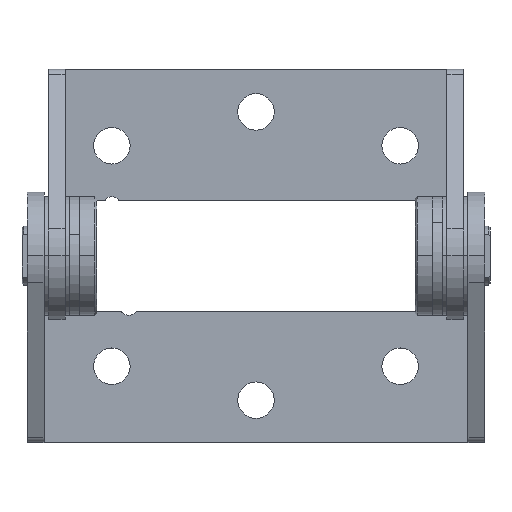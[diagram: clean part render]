
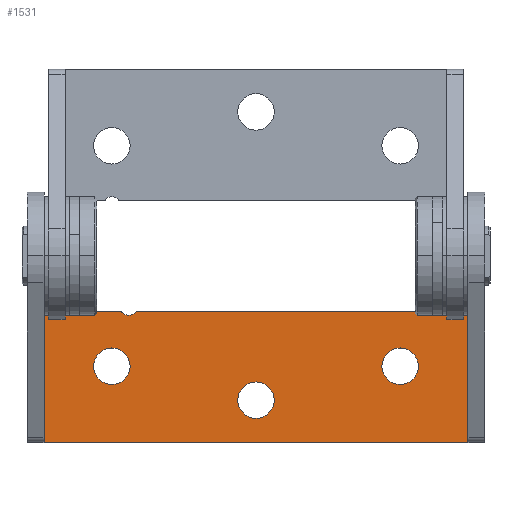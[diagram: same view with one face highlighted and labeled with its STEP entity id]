
A CAD part, top view. The second image highlights one B-rep face of the part: STEP entity #1531.
In plain terms, the highlighted planar face has unit normal (0, 0, 1).
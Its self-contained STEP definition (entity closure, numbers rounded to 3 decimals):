
#539 = VERTEX_POINT ( 'NONE', #4475 ) ;
#540 = VERTEX_POINT ( 'NONE', #4473 ) ;
#543 = VERTEX_POINT ( 'NONE', #4490 ) ;
#544 = VERTEX_POINT ( 'NONE', #4491 ) ;
#822 = VERTEX_POINT ( 'NONE', #4494 ) ;
#823 = VERTEX_POINT ( 'NONE', #4495 ) ;
#841 = VERTEX_POINT ( 'NONE', #2378 ) ;
#842 = VERTEX_POINT ( 'NONE', #2379 ) ;
#843 = VERTEX_POINT ( 'NONE', #2380 ) ;
#844 = VERTEX_POINT ( 'NONE', #2381 ) ;
#845 = VERTEX_POINT ( 'NONE', #2382 ) ;
#846 = VERTEX_POINT ( 'NONE', #2383 ) ;
#847 = VERTEX_POINT ( 'NONE', #2384 ) ;
#848 = VERTEX_POINT ( 'NONE', #2385 ) ;
#1001 = EDGE_LOOP ( 'NONE', ( #1392, #1394, #1393, #1395, #1397, #1396, #1398, #1399 ) ) ;
#1002 = EDGE_LOOP ( 'NONE', ( #1401, #1403 ) ) ;
#1003 = EDGE_LOOP ( 'NONE', ( #1400, #1405 ) ) ;
#1004 = EDGE_LOOP ( 'NONE', ( #1402, #1794 ) ) ;
#1392 = ORIENTED_EDGE ( 'NONE', *, *, #1614, .F. ) ;
#1393 = ORIENTED_EDGE ( 'NONE', *, *, #1611, .F. ) ;
#1394 = ORIENTED_EDGE ( 'NONE', *, *, #1613, .T. ) ;
#1395 = ORIENTED_EDGE ( 'NONE', *, *, #1615, .F. ) ;
#1396 = ORIENTED_EDGE ( 'NONE', *, *, #1617, .T. ) ;
#1397 = ORIENTED_EDGE ( 'NONE', *, *, #1616, .T. ) ;
#1398 = ORIENTED_EDGE ( 'NONE', *, *, #1618, .F. ) ;
#1399 = ORIENTED_EDGE ( 'NONE', *, *, #1619, .T. ) ;
#1400 = ORIENTED_EDGE ( 'NONE', *, *, #1621, .F. ) ;
#1401 = ORIENTED_EDGE ( 'NONE', *, *, #1620, .F. ) ;
#1402 = ORIENTED_EDGE ( 'NONE', *, *, #1622, .F. ) ;
#1403 = ORIENTED_EDGE ( 'NONE', *, *, #1582, .F. ) ;
#1405 = ORIENTED_EDGE ( 'NONE', *, *, #1586, .F. ) ;
#1531 = ADVANCED_FACE ( 'NONE', ( #2258, #2259, #2260, #2261 ), #2769, .T. ) ;
#1582 = EDGE_CURVE ( 'NONE', #539, #540, #3468, .T. ) ;
#1586 = EDGE_CURVE ( 'NONE', #543, #544, #3474, .T. ) ;
#1590 = EDGE_CURVE ( 'NONE', #822, #823, #3480, .T. ) ;
#1611 = EDGE_CURVE ( 'NONE', #841, #842, #2345, .T. ) ;
#1613 = EDGE_CURVE ( 'NONE', #843, #842, #3508, .T. ) ;
#1614 = EDGE_CURVE ( 'NONE', #843, #844, #3516, .T. ) ;
#1615 = EDGE_CURVE ( 'NONE', #845, #841, #2347, .T. ) ;
#1616 = EDGE_CURVE ( 'NONE', #845, #846, #2348, .T. ) ;
#1617 = EDGE_CURVE ( 'NONE', #846, #847, #2349, .T. ) ;
#1618 = EDGE_CURVE ( 'NONE', #848, #847, #2350, .T. ) ;
#1619 = EDGE_CURVE ( 'NONE', #848, #844, #3522, .T. ) ;
#1620 = EDGE_CURVE ( 'NONE', #540, #539, #3498, .T. ) ;
#1621 = EDGE_CURVE ( 'NONE', #544, #543, #3500, .T. ) ;
#1622 = EDGE_CURVE ( 'NONE', #823, #822, #3518, .T. ) ;
#1794 = ORIENTED_EDGE ( 'NONE', *, *, #1590, .F. ) ;
#2258 = FACE_OUTER_BOUND ( 'NONE', #1001, .T. ) ;
#2259 = FACE_BOUND ( 'NONE', #1002, .T. ) ;
#2260 = FACE_BOUND ( 'NONE', #1003, .T. ) ;
#2261 = FACE_BOUND ( 'NONE', #1004, .T. ) ;
#2345 = LINE ( 'NONE', #3000, #3513 ) ;
#2347 = LINE ( 'NONE', #3010, #3519 ) ;
#2348 = LINE ( 'NONE', #3012, #3520 ) ;
#2349 = LINE ( 'NONE', #3014, #3521 ) ;
#2350 = LINE ( 'NONE', #3016, #3523 ) ;
#2378 = CARTESIAN_POINT ( 'NONE',  ( -25., -6.5, -6. ) ) ;
#2379 = CARTESIAN_POINT ( 'NONE',  ( -16.118, -6.5, -6. ) ) ;
#2380 = CARTESIAN_POINT ( 'NONE',  ( -15.745, -6.667, -6. ) ) ;
#2381 = CARTESIAN_POINT ( 'NONE',  ( -14.255, -6.667, -6. ) ) ;
#2382 = CARTESIAN_POINT ( 'NONE',  ( -25., -22., -6. ) ) ;
#2383 = CARTESIAN_POINT ( 'NONE',  ( 25., -22., -6. ) ) ;
#2384 = CARTESIAN_POINT ( 'NONE',  ( 25., -6.5, -6. ) ) ;
#2385 = CARTESIAN_POINT ( 'NONE',  ( -13.882, -6.5, -6. ) ) ;
#2769 = PLANE ( 'NONE',  #3402 ) ;
#2770 = CARTESIAN_POINT ( 'NONE',  ( -27., -6.5, -6. ) ) ;
#2771 = DIRECTION ( 'NONE',  ( 0., 0., 1. ) ) ;
#2772 = DIRECTION ( 'NONE',  ( 0., -1., 0. ) ) ;
#2928 = CARTESIAN_POINT ( 'NONE',  ( 17., -13., -6. ) ) ;
#2929 = DIRECTION ( 'NONE',  ( 0., 0., 1. ) ) ;
#2930 = DIRECTION ( 'NONE',  ( -1., 0., 0. ) ) ;
#2938 = CARTESIAN_POINT ( 'NONE',  ( 0., -17., -6. ) ) ;
#2939 = DIRECTION ( 'NONE',  ( 0., 0., 1. ) ) ;
#2940 = DIRECTION ( 'NONE',  ( 1., 0., 0. ) ) ;
#2948 = CARTESIAN_POINT ( 'NONE',  ( -17., -13., -6. ) ) ;
#2949 = DIRECTION ( 'NONE',  ( 0., 0., 1. ) ) ;
#2950 = DIRECTION ( 'NONE',  ( 1., 0., 0. ) ) ;
#3000 = CARTESIAN_POINT ( 'NONE',  ( -27., -6.5, -6. ) ) ;
#3001 = DIRECTION ( 'NONE',  ( 1., 0., 0. ) ) ;
#3004 = CARTESIAN_POINT ( 'NONE',  ( -16.118, -7., -6. ) ) ;
#3005 = DIRECTION ( 'NONE',  ( 0., 0., 1. ) ) ;
#3006 = DIRECTION ( 'NONE',  ( 0., -1., 0. ) ) ;
#3007 = CARTESIAN_POINT ( 'NONE',  ( -15., -6., -6. ) ) ;
#3008 = DIRECTION ( 'NONE',  ( 0., 0., 1. ) ) ;
#3009 = DIRECTION ( 'NONE',  ( -1., 0., 0. ) ) ;
#3010 = CARTESIAN_POINT ( 'NONE',  ( -25., -22., -6. ) ) ;
#3011 = DIRECTION ( 'NONE',  ( 0., 1., 0. ) ) ;
#3012 = CARTESIAN_POINT ( 'NONE',  ( -27., -22., -6. ) ) ;
#3013 = DIRECTION ( 'NONE',  ( 1., 0., 0. ) ) ;
#3014 = CARTESIAN_POINT ( 'NONE',  ( 25., -22., -6. ) ) ;
#3015 = DIRECTION ( 'NONE',  ( 0., 1., 0. ) ) ;
#3016 = CARTESIAN_POINT ( 'NONE',  ( -27., -6.5, -6. ) ) ;
#3017 = DIRECTION ( 'NONE',  ( 1., 0., 0. ) ) ;
#3018 = CARTESIAN_POINT ( 'NONE',  ( -13.882, -7., -6. ) ) ;
#3019 = DIRECTION ( 'NONE',  ( 0., 0., 1. ) ) ;
#3020 = DIRECTION ( 'NONE',  ( 0., -1., 0. ) ) ;
#3021 = CARTESIAN_POINT ( 'NONE',  ( 17., -13., -6. ) ) ;
#3022 = DIRECTION ( 'NONE',  ( 0., 0., 1. ) ) ;
#3023 = DIRECTION ( 'NONE',  ( -1., 0., 0. ) ) ;
#3024 = CARTESIAN_POINT ( 'NONE',  ( 0., -17., -6. ) ) ;
#3025 = DIRECTION ( 'NONE',  ( 0., 0., 1. ) ) ;
#3026 = DIRECTION ( 'NONE',  ( 1., 0., 0. ) ) ;
#3027 = CARTESIAN_POINT ( 'NONE',  ( -17., -13., -6. ) ) ;
#3028 = DIRECTION ( 'NONE',  ( 0., 0., 1. ) ) ;
#3029 = DIRECTION ( 'NONE',  ( 1., 0., 0. ) ) ;
#3402 = AXIS2_PLACEMENT_3D ( 'NONE', #2770, #2771, #2772 ) ;
#3468 = CIRCLE ( 'NONE', #3469, 2.15 ) ;
#3469 = AXIS2_PLACEMENT_3D ( 'NONE', #2928, #2929, #2930 ) ;
#3474 = CIRCLE ( 'NONE', #3475, 2.15 ) ;
#3475 = AXIS2_PLACEMENT_3D ( 'NONE', #2938, #2939, #2940 ) ;
#3480 = CIRCLE ( 'NONE', #3481, 2.15 ) ;
#3481 = AXIS2_PLACEMENT_3D ( 'NONE', #2948, #2949, #2950 ) ;
#3498 = CIRCLE ( 'NONE', #3525, 2.15 ) ;
#3500 = CIRCLE ( 'NONE', #3527, 2.15 ) ;
#3508 = CIRCLE ( 'NONE', #3515, 0.5 ) ;
#3513 = VECTOR ( 'NONE', #3001, 1000. ) ;
#3515 = AXIS2_PLACEMENT_3D ( 'NONE', #3004, #3005, #3006 ) ;
#3516 = CIRCLE ( 'NONE', #3517, 1. ) ;
#3517 = AXIS2_PLACEMENT_3D ( 'NONE', #3007, #3008, #3009 ) ;
#3518 = CIRCLE ( 'NONE', #3529, 2.15 ) ;
#3519 = VECTOR ( 'NONE', #3011, 1000. ) ;
#3520 = VECTOR ( 'NONE', #3013, 1000. ) ;
#3521 = VECTOR ( 'NONE', #3015, 1000. ) ;
#3522 = CIRCLE ( 'NONE', #3524, 0.5 ) ;
#3523 = VECTOR ( 'NONE', #3017, 1000. ) ;
#3524 = AXIS2_PLACEMENT_3D ( 'NONE', #3018, #3019, #3020 ) ;
#3525 = AXIS2_PLACEMENT_3D ( 'NONE', #3021, #3022, #3023 ) ;
#3527 = AXIS2_PLACEMENT_3D ( 'NONE', #3024, #3025, #3026 ) ;
#3529 = AXIS2_PLACEMENT_3D ( 'NONE', #3027, #3028, #3029 ) ;
#4473 = CARTESIAN_POINT ( 'NONE',  ( 19.15, -13., -6. ) ) ;
#4475 = CARTESIAN_POINT ( 'NONE',  ( 14.85, -13., -6. ) ) ;
#4490 = CARTESIAN_POINT ( 'NONE',  ( -2.15, -17., -6. ) ) ;
#4491 = CARTESIAN_POINT ( 'NONE',  ( 2.15, -17., -6. ) ) ;
#4494 = CARTESIAN_POINT ( 'NONE',  ( -19.15, -13., -6. ) ) ;
#4495 = CARTESIAN_POINT ( 'NONE',  ( -14.85, -13., -6. ) ) ;
